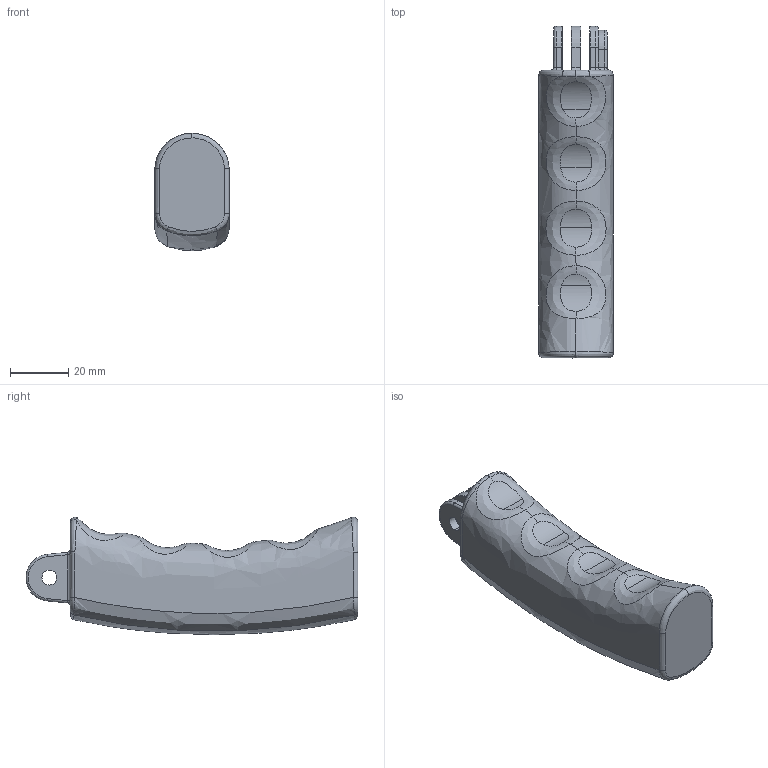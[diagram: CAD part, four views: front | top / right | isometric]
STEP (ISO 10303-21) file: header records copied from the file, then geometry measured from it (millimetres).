
FILE_DESCRIPTION (( 'STEP AP214' ), '1' );
FILE_NAME ('gp_grip.STEP', '2021-05-24T17:38:47', ( '' ), ( '' ), 'SwSTEP 2.0', 'SolidWorks 2020', '' );
FILE_SCHEMA (( 'AUTOMOTIVE_DESIGN' ));
Length unit declared in the file: inch
Products named in the file (1): gp_grip
Bounding box: 25.4 x 113.54 x 40.17 mm (x, y, z)
Volume: 72670.1 mm3; surface area: 12780 mm2
Topology: 1 solids, 1 shells, 129 faces, 324 edges, 198 vertices
Faces by surface type: cylinder 49, bspline 37, plane 26, torus 17
Entity records: 7549 total; most frequent: CARTESIAN_POINT 4696, ORIENTED_EDGE 648, DIRECTION 516, EDGE_CURVE 324, AXIS2_PLACEMENT_3D 203, VERTEX_POINT 198, EDGE_LOOP 136, ADVANCED_FACE 129
